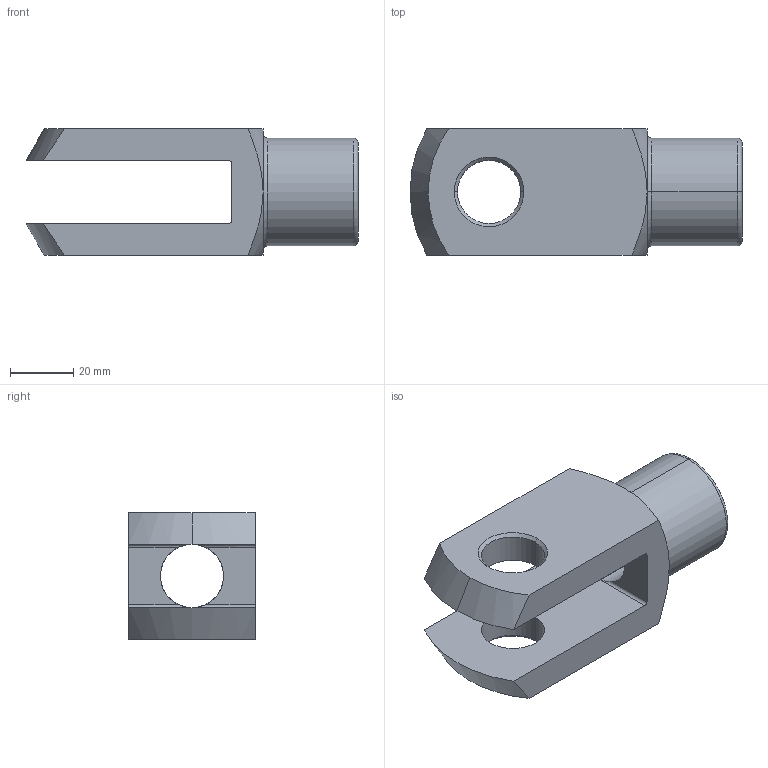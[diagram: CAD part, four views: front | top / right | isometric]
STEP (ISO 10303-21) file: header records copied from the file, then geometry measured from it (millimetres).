
FILE_DESCRIPTION (( 'STEP AP203' ), '1' );
FILE_NAME ('65636.W0204.step', '2014-01-17T13:15:00', ( 'User' ), ( '' ), 'SwSTEP 2.0', 'SolidWorks 2009', '' );
FILE_SCHEMA (( 'CONFIG_CONTROL_DESIGN' ));
Length unit declared in the file: millimetre
Products named in the file (1): 65636.W0204
Bounding box: 105 x 40 x 40 mm (x, y, z)
Volume: 71970.2 mm3; surface area: 21447.7 mm2
Topology: 1 solids, 1 shells, 39 faces, 93 edges, 56 vertices
Faces by surface type: cone 13, cylinder 12, plane 10, torus 4
Entity records: 1344 total; most frequent: CARTESIAN_POINT 349, DIRECTION 201, ORIENTED_EDGE 186, EDGE_CURVE 93, AXIS2_PLACEMENT_3D 84, VERTEX_POINT 56, EDGE_LOOP 45, CIRCLE 44
